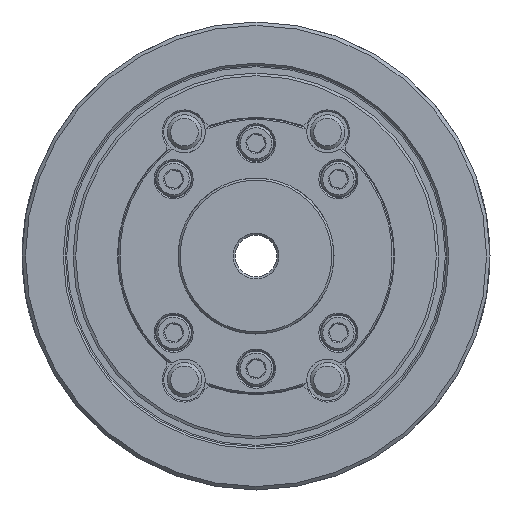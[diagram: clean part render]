
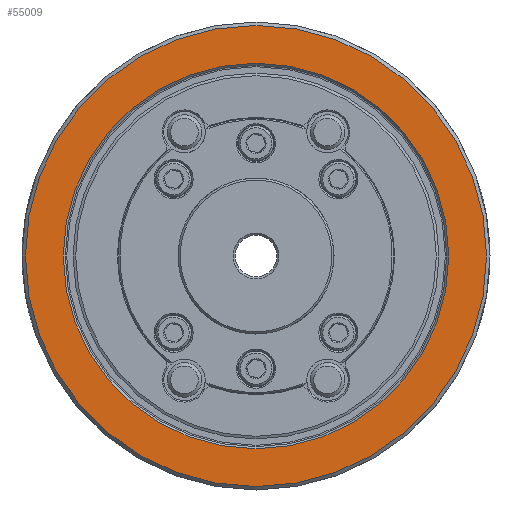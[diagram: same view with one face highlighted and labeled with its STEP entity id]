
A CAD part, left-side view. The second image highlights one B-rep face of the part: STEP entity #55009.
In plain terms, the highlighted planar face has unit normal (-1, 0, 0).
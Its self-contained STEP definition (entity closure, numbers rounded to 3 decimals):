
#1328 = VERTEX_POINT ( 'NONE', #32942 ) ;
#3317 = AXIS2_PLACEMENT_3D ( 'NONE', #41267, #3805, #40604 ) ;
#3805 = DIRECTION ( 'NONE',  ( 1., 0., 0. ) ) ;
#4112 = EDGE_LOOP ( 'NONE', ( #44048 ) ) ;
#10068 = EDGE_CURVE ( 'NONE', #1328, #1328, #29495, .T. ) ;
#12944 = DIRECTION ( 'NONE',  ( 1., 0., 0. ) ) ;
#13183 = CARTESIAN_POINT ( 'NONE',  ( -60., 0., -66.5 ) ) ;
#22921 = AXIS2_PLACEMENT_3D ( 'NONE', #49390, #12944, #34252 ) ;
#29495 = CIRCLE ( 'NONE', #22921, 55.6 ) ;
#30267 = FACE_BOUND ( 'NONE', #4112, .T. ) ;
#32942 = CARTESIAN_POINT ( 'NONE',  ( -60., 0., -55.6 ) ) ;
#34252 = DIRECTION ( 'NONE',  ( 0., 0., -1. ) ) ;
#36954 = AXIS2_PLACEMENT_3D ( 'NONE', #50895, #40930, #40596 ) ;
#39293 = EDGE_LOOP ( 'NONE', ( #47422 ) ) ;
#40596 = DIRECTION ( 'NONE',  ( 0., 0., -1. ) ) ;
#40604 = DIRECTION ( 'NONE',  ( 0., 0., -1. ) ) ;
#40930 = DIRECTION ( 'NONE',  ( 1., 0., 0. ) ) ;
#40935 = PLANE ( 'NONE',  #3317 ) ;
#41267 = CARTESIAN_POINT ( 'NONE',  ( -60., -55.6, 0. ) ) ;
#44048 = ORIENTED_EDGE ( 'NONE', *, *, #10068, .T. ) ;
#47422 = ORIENTED_EDGE ( 'NONE', *, *, #52201, .F. ) ;
#49390 = CARTESIAN_POINT ( 'NONE',  ( -60., 0., 0. ) ) ;
#50895 = CARTESIAN_POINT ( 'NONE',  ( -60., 0., 0. ) ) ;
#52201 = EDGE_CURVE ( 'NONE', #65416, #65416, #58887, .T. ) ;
#55009 = ADVANCED_FACE ( 'NONE', ( #66367, #30267 ), #40935, .F. ) ;
#58887 = CIRCLE ( 'NONE', #36954, 66.5 ) ;
#65416 = VERTEX_POINT ( 'NONE', #13183 ) ;
#66367 = FACE_OUTER_BOUND ( 'NONE', #39293, .T. ) ;
